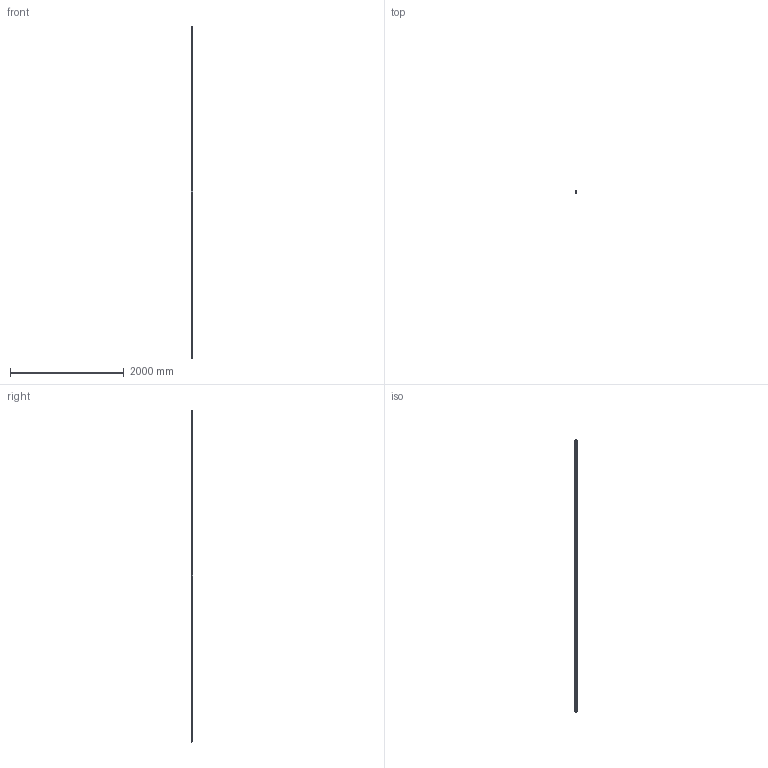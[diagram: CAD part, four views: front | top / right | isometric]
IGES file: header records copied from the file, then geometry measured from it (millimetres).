
Start section: 3D InterOp IGES (v. 2019 1.0.2), Spatial Corp. Copyright (c) 1999-2017.
Global section: file name: R1605.6_size35.igs; native system: Spatial Corp.; preprocessor: 3D InterOp GENERIC/IGES 3.0; author: Noname; organization: Noname; date: 20220629.163508; units: millimetre
Bounding box: 34.2 x 33.25 x 5846.71 mm (x, y, z)
Surface area: 1269833.2 mm2 (no closed solid volume)
Topology: 0 solids, 0 shells, 1709 faces, 9332 edges, 9328 vertices
Faces by surface type: extrusion 1291, revolution 418
